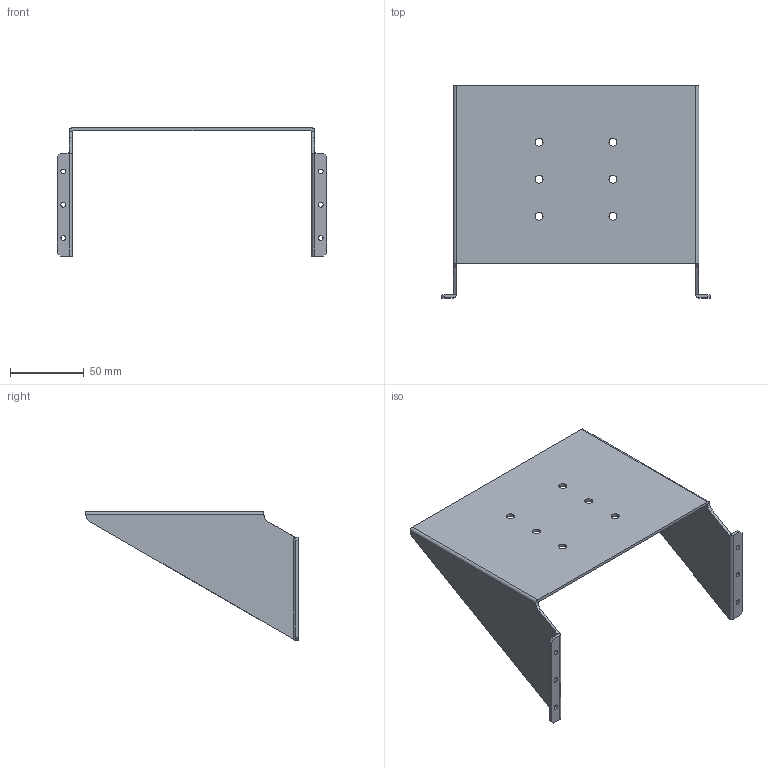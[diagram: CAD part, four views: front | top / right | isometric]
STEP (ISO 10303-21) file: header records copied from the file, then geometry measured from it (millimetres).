
FILE_DESCRIPTION (( 'STEP AP214' ), '1' );
FILE_NAME ('CAS2-00-150 BRACKET.STEP', '2021-07-12T06:42:46', ( '' ), ( '' ), 'SwSTEP 2.0', 'SolidWorks 2020', '' );
FILE_SCHEMA (( 'AUTOMOTIVE_DESIGN' ));
Length unit declared in the file: millimetre
Products named in the file (1): CAS2-00-150 BRACKET
Bounding box: 182 x 143.3 x 86.58 mm (x, y, z)
Volume: 66074.9 mm3; surface area: 67931.6 mm2
Topology: 1 solids, 1 shells, 62 faces, 172 edges, 112 vertices
Faces by surface type: cylinder 36, plane 26
Entity records: 2102 total; most frequent: CARTESIAN_POINT 387, DIRECTION 358, ORIENTED_EDGE 344, EDGE_CURVE 172, AXIS2_PLACEMENT_3D 131, VERTEX_POINT 112, LINE 96, VECTOR 96
